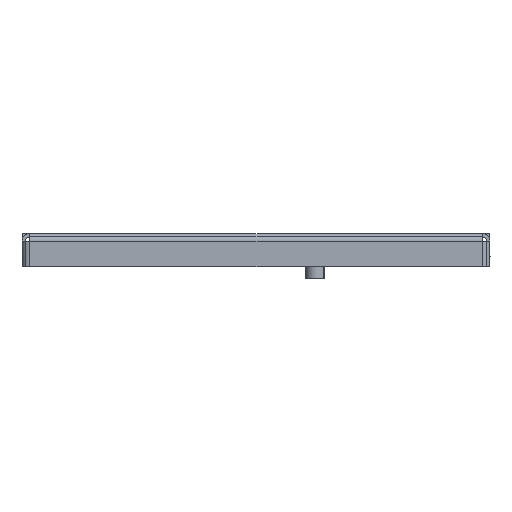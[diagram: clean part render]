
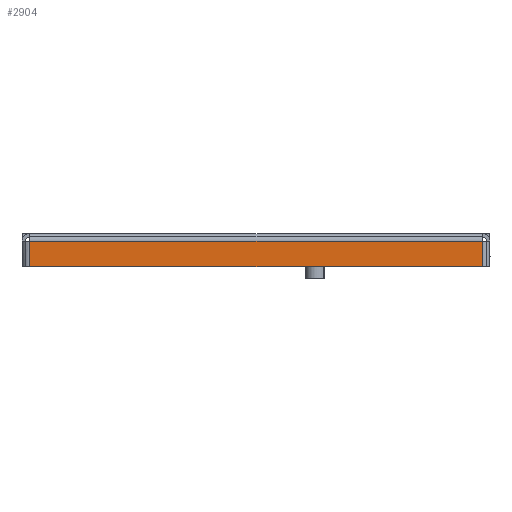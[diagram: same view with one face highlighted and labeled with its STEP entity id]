
A CAD part, left-side view. The second image highlights one B-rep face of the part: STEP entity #2904.
In plain terms, the highlighted planar face has unit normal (-1, 0, 0).
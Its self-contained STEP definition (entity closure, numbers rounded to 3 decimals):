
#235 = EDGE_CURVE ( 'NONE', #5838, #2684, #2389, .T. ) ;
#291 = VECTOR ( 'NONE', #4375, 1000. ) ;
#397 = DIRECTION ( 'NONE',  ( 0., 0., -1. ) ) ;
#482 = LINE ( 'NONE', #5707, #1714 ) ;
#764 = PLANE ( 'NONE',  #4852 ) ;
#1223 = CARTESIAN_POINT ( 'NONE',  ( -493.2, -95.3, -1.4 ) ) ;
#1470 = LINE ( 'NONE', #2447, #2029 ) ;
#1714 = VECTOR ( 'NONE', #4368, 1000. ) ;
#1748 = DIRECTION ( 'NONE',  ( 1., 0., 0. ) ) ;
#1959 = CARTESIAN_POINT ( 'NONE',  ( -493.2, 95.3, -3.2 ) ) ;
#1996 = EDGE_LOOP ( 'NONE', ( #6147, #5336, #2011, #2002 ) ) ;
#2002 = ORIENTED_EDGE ( 'NONE', *, *, #6088, .F. ) ;
#2011 = ORIENTED_EDGE ( 'NONE', *, *, #2254, .F. ) ;
#2029 = VECTOR ( 'NONE', #5864, 1000. ) ;
#2225 = CARTESIAN_POINT ( 'NONE',  ( -493.2, 0., 0. ) ) ;
#2254 = EDGE_CURVE ( 'NONE', #5621, #4735, #482, .T. ) ;
#2389 = LINE ( 'NONE', #4349, #291 ) ;
#2447 = CARTESIAN_POINT ( 'NONE',  ( -493.2, 95.3, -14. ) ) ;
#2684 = VERTEX_POINT ( 'NONE', #5043 ) ;
#2904 = ADVANCED_FACE ( 'NONE', ( #5097 ), #764, .F. ) ;
#3140 = EDGE_CURVE ( 'NONE', #4735, #5838, #1470, .T. ) ;
#3666 = CARTESIAN_POINT ( 'NONE',  ( -493.2, 95.3, -14. ) ) ;
#3674 = DIRECTION ( 'NONE',  ( 0., 1., 0. ) ) ;
#4349 = CARTESIAN_POINT ( 'NONE',  ( -493.2, -95.3, -3.2 ) ) ;
#4368 = DIRECTION ( 'NONE',  ( 0., 1., 0. ) ) ;
#4375 = DIRECTION ( 'NONE',  ( 0., -1., 0. ) ) ;
#4735 = VERTEX_POINT ( 'NONE', #3666 ) ;
#4852 = AXIS2_PLACEMENT_3D ( 'NONE', #2225, #1748, #3674 ) ;
#5043 = CARTESIAN_POINT ( 'NONE',  ( -493.2, -95.3, -3.2 ) ) ;
#5097 = FACE_OUTER_BOUND ( 'NONE', #1996, .T. ) ;
#5336 = ORIENTED_EDGE ( 'NONE', *, *, #3140, .F. ) ;
#5552 = VECTOR ( 'NONE', #397, 1000. ) ;
#5558 = LINE ( 'NONE', #1223, #5552 ) ;
#5565 = CARTESIAN_POINT ( 'NONE',  ( -493.2, -95.3, -14. ) ) ;
#5621 = VERTEX_POINT ( 'NONE', #5565 ) ;
#5707 = CARTESIAN_POINT ( 'NONE',  ( -493.2, -95.3, -14. ) ) ;
#5838 = VERTEX_POINT ( 'NONE', #1959 ) ;
#5864 = DIRECTION ( 'NONE',  ( 0., 0., 1. ) ) ;
#6088 = EDGE_CURVE ( 'NONE', #2684, #5621, #5558, .T. ) ;
#6147 = ORIENTED_EDGE ( 'NONE', *, *, #235, .F. ) ;
